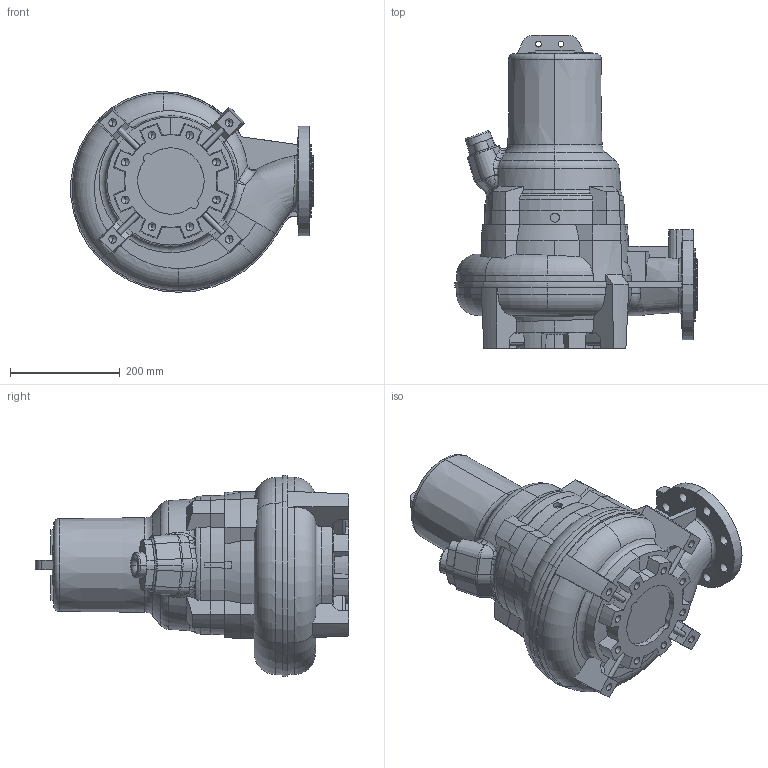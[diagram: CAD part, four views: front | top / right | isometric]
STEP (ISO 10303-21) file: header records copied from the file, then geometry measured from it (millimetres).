
FILE_DESCRIPTION (( 'STEP AP203' ), '1' );
FILE_NAME ('80FWC-M_2,2-3,1kW.STEP', '2025-03-21T10:14:43', ( '' ), ( '' ), 'SwSTEP 2.0', 'SolidWorks 2023', '' );
FILE_SCHEMA (( 'CONFIG_CONTROL_DESIGN' ));
Length unit declared in the file: millimetre
Products named in the file (1): 80FWC-M_2,2-3,1kW
Bounding box: 441.26 x 570 x 365.91 mm (x, y, z)
Volume: 28304828.7 mm3; surface area: 770146.4 mm2
Topology: 1 solids, 1 shells, 631 faces, 1681 edges, 1061 vertices
Faces by surface type: plane 248, cone 161, bspline 77, cylinder 76, torus 60, sphere 9
Entity records: 28779 total; most frequent: CARTESIAN_POINT 13978, ORIENTED_EDGE 3306, DIRECTION 2802, EDGE_CURVE 1653, AXIS2_PLACEMENT_3D 1130, VERTEX_POINT 1061, EDGE_LOOP 688, FACE_OUTER_BOUND 631
